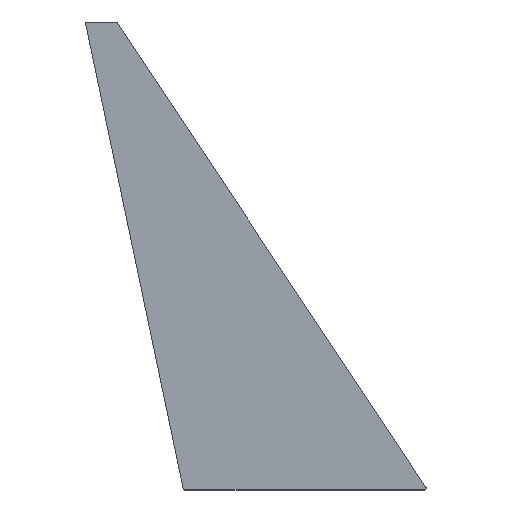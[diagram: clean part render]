
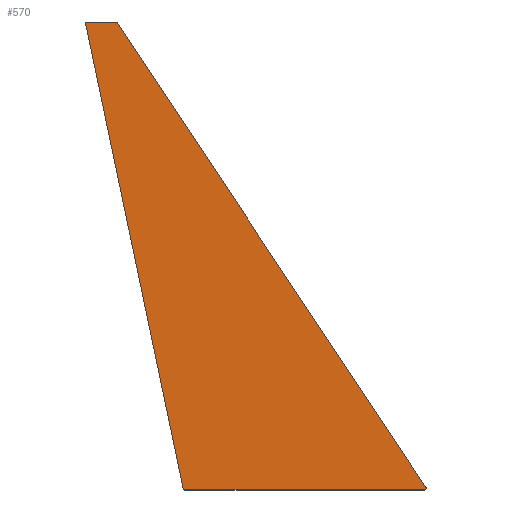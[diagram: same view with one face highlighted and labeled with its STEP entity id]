
A CAD part, top view. The second image highlights one B-rep face of the part: STEP entity #570.
In plain terms, the highlighted planar face has unit normal (0, 0, 1).
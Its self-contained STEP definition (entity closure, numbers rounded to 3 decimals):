
#276=CIRCLE('',#538,3.);
#278=CIRCLE('',#542,3.);
#280=CIRCLE('',#546,3.);
#282=CIRCLE('',#550,3.);
#327=ORIENTED_EDGE('',*,*,#386,.F.);
#328=ORIENTED_EDGE('',*,*,#406,.T.);
#329=ORIENTED_EDGE('',*,*,#404,.T.);
#330=ORIENTED_EDGE('',*,*,#401,.T.);
#331=ORIENTED_EDGE('',*,*,#398,.T.);
#332=ORIENTED_EDGE('',*,*,#395,.F.);
#333=ORIENTED_EDGE('',*,*,#392,.F.);
#334=ORIENTED_EDGE('',*,*,#389,.F.);
#338=VECTOR('',#432,1.);
#342=VECTOR('',#444,1.);
#346=VECTOR('',#456,1.);
#350=VECTOR('',#468,1.);
#354=LINE('',#491,#338);
#358=LINE('',#503,#342);
#362=LINE('',#515,#346);
#366=LINE('',#527,#350);
#368=VERTEX_POINT('',#485);
#370=VERTEX_POINT('',#489);
#372=VERTEX_POINT('',#494);
#374=VERTEX_POINT('',#500);
#376=VERTEX_POINT('',#506);
#378=VERTEX_POINT('',#512);
#380=VERTEX_POINT('',#518);
#382=VERTEX_POINT('',#524);
#386=EDGE_CURVE('',#370,#368,#354,.T.);
#389=EDGE_CURVE('',#368,#372,#276,.T.);
#392=EDGE_CURVE('',#372,#374,#358,.T.);
#395=EDGE_CURVE('',#374,#376,#278,.T.);
#398=EDGE_CURVE('',#378,#376,#362,.T.);
#401=EDGE_CURVE('',#380,#378,#280,.T.);
#404=EDGE_CURVE('',#382,#380,#366,.T.);
#406=EDGE_CURVE('',#370,#382,#282,.T.);
#416=EDGE_LOOP('',(#327,#328,#329,#330,#331,#332,#333,#334));
#426=FACE_BOUND('',#416,.T.);
#432=DIRECTION('',(-172.768,824.,0.));
#438=DIRECTION('',(0.,0.,-1.));
#439=DIRECTION('',(0.,-3.,0.));
#444=DIRECTION('',(50.462,0.,0.));
#450=DIRECTION('',(0.,0.,-1.));
#451=DIRECTION('',(0.,-3.,0.));
#456=DIRECTION('',(-547.464,824.,0.));
#462=DIRECTION('',(0.,0.,1.));
#463=DIRECTION('',(0.,3.,0.));
#468=DIRECTION('',(425.158,0.,0.));
#473=DIRECTION('',(0.,0.,1.));
#474=DIRECTION('',(0.,3.,0.));
#477=DIRECTION('',(0.,0.,1.));
#478=DIRECTION('',(0.,-1.,0.));
#485=CARTESIAN_POINT('',(6865.262,13777.744,40.));
#489=CARTESIAN_POINT('',(7038.029,12953.744,40.));
#491=CARTESIAN_POINT('',(7038.029,12953.744,40.));
#494=CARTESIAN_POINT('',(6868.198,13781.36,40.));
#497=CARTESIAN_POINT('',(6868.198,13778.36,40.));
#500=CARTESIAN_POINT('',(6918.66,13781.36,40.));
#503=CARTESIAN_POINT('',(6868.198,13781.36,40.));
#506=CARTESIAN_POINT('',(6921.158,13780.02,40.));
#509=CARTESIAN_POINT('',(6918.66,13778.36,40.));
#512=CARTESIAN_POINT('',(7468.623,12956.02,40.));
#515=CARTESIAN_POINT('',(7468.623,12956.02,40.));
#518=CARTESIAN_POINT('',(7466.124,12951.36,40.));
#521=CARTESIAN_POINT('',(7466.124,12954.36,40.));
#524=CARTESIAN_POINT('',(7040.966,12951.36,40.));
#527=CARTESIAN_POINT('',(7040.966,12951.36,40.));
#530=CARTESIAN_POINT('',(7040.966,12954.36,40.));
#532=CARTESIAN_POINT('',(0.,0.,40.));
#538=AXIS2_PLACEMENT_3D('',#497,#438,#439);
#542=AXIS2_PLACEMENT_3D('',#509,#450,#451);
#546=AXIS2_PLACEMENT_3D('',#521,#462,#463);
#550=AXIS2_PLACEMENT_3D('',#530,#473,#474);
#552=AXIS2_PLACEMENT_3D('',#532,#477,#478);
#560=PLANE('',#552);
#570=ADVANCED_FACE('',(#426),#560,.T.);
